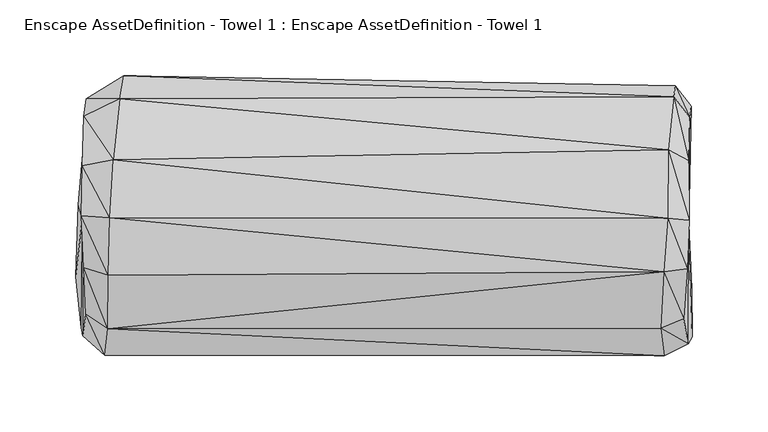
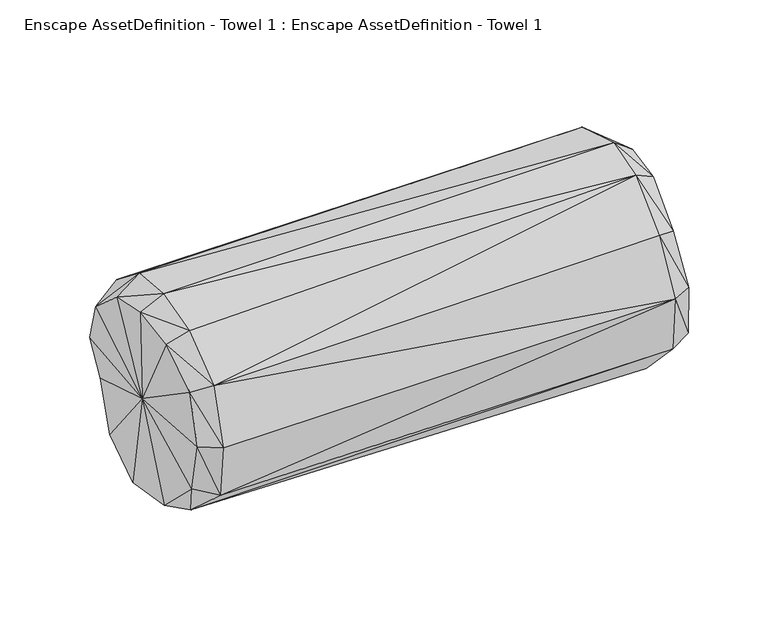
"""IFC4 building model written with IfcOpenShell, lengths in millimetres: geographic element geometry, Enscape AssetDefinition - Towel 1 : Enscape AssetDefinition - Towel 1."""

from ifc_helpers import new_model, si_unit, origin, place, context, project, spatial, faceted_brep, source, transform, mapped, element, save


def enscape_assetdefinition_towel_1_enscape_assetdefinition_8e103dc8(model_context):
    return source(origin(), model_context, "Body", "Brep", [
        faceted_brep([(-179.4193089, 43.070145, 159.6371979), (185.7682467, 4.3958025, 167.9818928), (186.1765087, 49.4161174, 154.1731656), (-181.7113459, 4.6138093, 166.0574973), (183.3830625, -30.9014246, 162.4603868), (200.215131, 3.1254198, 158.3678126), (198.8545954, -28.782798, 154.1761458), (-182.5645566, -33.1825614, 157.3927253), (-199.8702884, 38.9706343, 148.6486942), (-200.3251314, 6.0407603, 155.7665914), (-183.0124408, -68.5045645, 131.6312999), (-198.7277418, -28.0831959, 147.8807032), (-199.7910142, 4.2313067, 82.1319446), (-198.6811757, 71.6190785, 120.3474849), (-174.9957502, 83.2120702, 128.5157949), (-197.1095353, 83.2180083, 85.9460682), (189.9827123, 84.4774917, 117.762126), (-172.5540906, 98.2069448, 88.2311761), (-197.6644695, 67.4274117, 60.5096705), (190.8032149, 91.8768346, 84.4408348), (187.715441, 71.904473, 57.3307425), (-177.2888005, 75.5223855, 58.8954315), (-199.2004067, 50.944142, 22.2871955), (-179.7631532, 57.0711158, 16.5288523), (-202.3030519, 13.4480251, 4.6257004), (183.9369833, 49.2080152, 14.7630004), (180.7659864, 12.5036612, -2.9956067), (-184.015274, 13.27461, -4.0123095), (-203.975752, -34.1051258, 14.2734768), (184.1896921, -44.2602597, 3.0540721), (-184.8169416, -39.0043259, 6.5837945), (199.2281526, 43.7132679, 21.687679), (198.56821, 11.1153563, 1.8025169), (199.732542, 61.6165474, 60.407605), (199.8554319, 0.5291611, 81.099391), (201.5975118, -41.6352674, 9.248428), (185.0924194, -80.1193565, 41.3330346), (201.9383758, -73.5018626, 45.1937281), (-184.0925813, -79.6050578, 43.4308499), (183.6476326, -86.159125, 88.6295289), (199.2856413, -78.2108009, 88.1568566), (-184.8962158, -85.8925581, 88.6919647), (181.1623722, -68.1616962, 133.6310208), (-200.5778104, -67.5136223, 47.7493592), (-199.507609, -73.0817094, 86.8755728), (-197.4603236, -58.9350723, 124.6065423), (196.4297444, -61.75825, 128.2809377), (199.7553408, 42.311091, 145.0902224), (200.4499882, 71.0988417, 112.3545766), (201.3349086, 78.3396289, 84.356606)], [[[0, 1, 2]], [[1, 0, 3]], [[3, 4, 1]], [[5, 2, 1]], [[6, 1, 4]], [[1, 6, 5]], [[4, 3, 7]], [[8, 3, 0]], [[3, 8, 9]], [[9, 7, 3]], [[10, 4, 7]], [[11, 10, 7]], [[7, 9, 11]], [[12, 9, 8]], [[12, 11, 9]], [[0, 13, 8]], [[12, 8, 13]], [[13, 0, 14]], [[14, 15, 13]], [[12, 13, 15]], [[14, 2, 16]], [[2, 14, 0]], [[16, 17, 14]], [[15, 14, 17]], [[17, 18, 15]], [[12, 15, 18]], [[17, 16, 19]], [[17, 20, 21]], [[20, 17, 19]], [[18, 17, 21]], [[21, 22, 18]], [[12, 18, 22]], [[20, 23, 21]], [[22, 21, 23]], [[23, 24, 22]], [[12, 22, 24]], [[23, 20, 25]], [[23, 26, 27]], [[26, 23, 25]], [[24, 23, 27]], [[27, 28, 24]], [[12, 24, 28]], [[27, 29, 30]], [[29, 27, 26]], [[28, 27, 30]], [[31, 26, 25]], [[26, 31, 32]], [[32, 29, 26]], [[33, 25, 20]], [[25, 33, 31]], [[34, 31, 33]], [[34, 32, 31]], [[29, 32, 35]], [[34, 35, 32]], [[36, 30, 29]], [[35, 36, 29]], [[36, 35, 37]], [[34, 37, 35]], [[30, 36, 38]], [[39, 38, 36]], [[37, 39, 36]], [[39, 37, 40]], [[34, 40, 37]], [[38, 39, 41]], [[10, 39, 42]], [[39, 10, 41]], [[40, 42, 39]], [[43, 30, 38]], [[44, 38, 41]], [[38, 44, 43]], [[45, 41, 10]], [[41, 45, 44]], [[4, 10, 42]], [[10, 11, 45]], [[42, 40, 46]], [[46, 4, 42]], [[4, 46, 6]], [[34, 46, 40]], [[34, 6, 46]], [[34, 5, 6]], [[34, 47, 5]], [[34, 48, 47]], [[34, 49, 48]], [[34, 33, 49]], [[2, 5, 47]], [[47, 16, 2]], [[16, 47, 48]], [[48, 19, 16]], [[19, 48, 49]], [[49, 20, 19]], [[20, 49, 33]], [[12, 44, 45]], [[12, 45, 11]], [[12, 43, 44]], [[12, 28, 43]], [[30, 43, 28]]]),
    ])


if __name__ == "__main__":
    model = new_model("IFC4")
    model_context = context("Model", 3, world=origin())
    ifc_project = project(units=[si_unit("LENGTHUNIT", "METRE", prefix="MILLI")], contexts=[model_context])
    site = spatial("IfcSite", under=ifc_project)
    building = spatial("IfcBuilding", under=site)
    placement = place(None, origin())
    enscape_assetdefinition_towel_1_enscape_assetdefinition_shape = enscape_assetdefinition_towel_1_enscape_assetdefinition_8e103dc8(model_context)
    element("IfcGeographicElement", 1, ObjectType="Enscape AssetDefinition - Towel 1 : Enscape AssetDefinition - Towel 1", at=placement, inside=building, context=model_context, shape_type="MappedRepresentation", body=[
        mapped(enscape_assetdefinition_towel_1_enscape_assetdefinition_shape, transform((0.0, 0.0, 0.0), x_axis=(1.0, 0.0, 0.0), y_axis=(0.0, 1.0, 0.0), z_axis=(0.0, 0.0, 1.0))),
    ])
    save(model, "model.ifc")
